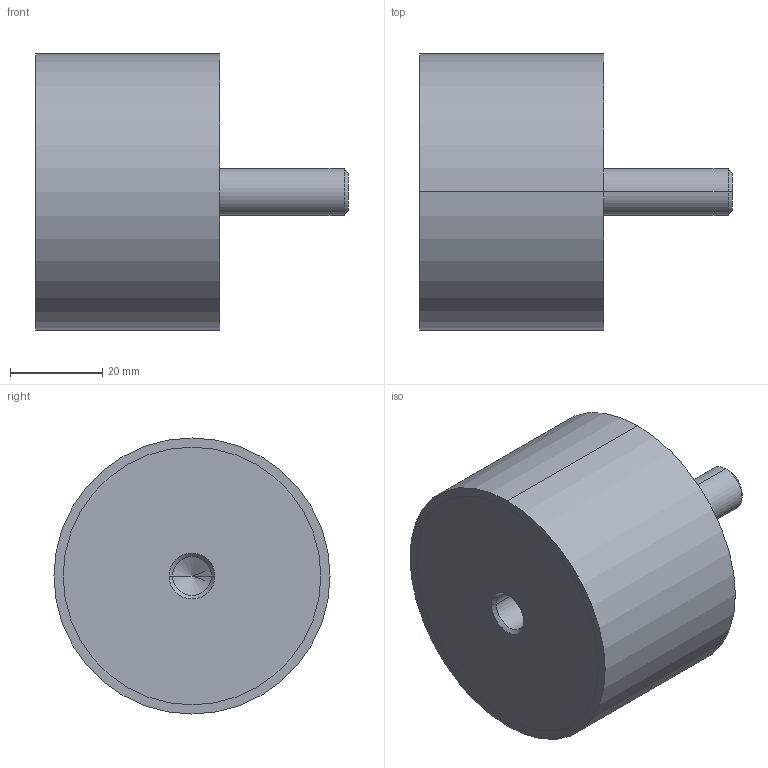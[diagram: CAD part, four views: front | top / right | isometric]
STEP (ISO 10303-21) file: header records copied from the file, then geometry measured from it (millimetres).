
FILE_DESCRIPTION (( 'STEP AP214' ), '1' );
FILE_NAME ('351-60-40-M10-ES-40.step', '2025-07-23T09:59:18', ( '' ), ( '' ), 'SwSTEP 2.0', 'SolidWorks 2022', '' );
FILE_SCHEMA (( 'AUTOMOTIVE_DESIGN' ));
Length unit declared in the file: millimetre
Products named in the file (1): 351-60-40-M10-ES-40
Bounding box: 68 x 60 x 60 mm (x, y, z)
Volume: 114547.5 mm3; surface area: 14355.6 mm2
Topology: 1 solids, 1 shells, 24 faces, 48 edges, 29 vertices
Faces by surface type: cylinder 12, cone 6, plane 6
Entity records: 740 total; most frequent: DIRECTION 124, CARTESIAN_POINT 100, ORIENTED_EDGE 92, AXIS2_PLACEMENT_3D 53, EDGE_CURVE 46, VERTEX_POINT 29, EDGE_LOOP 29, CIRCLE 28
